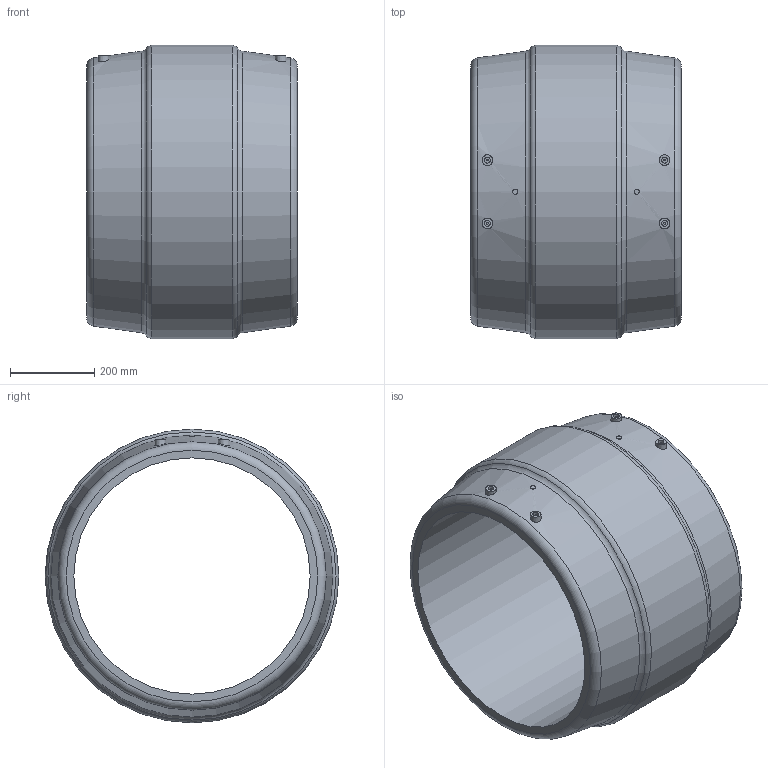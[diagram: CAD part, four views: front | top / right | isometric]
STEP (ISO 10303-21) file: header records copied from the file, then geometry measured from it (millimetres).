
FILE_DESCRIPTION(/* description */ ('Unknown'),/* implementation_level */ '2;1');
FILE_NAME(/* name */ 'MP560C',/* time_stamp */ '2020-12-09T18:07:57+01:00',/* author */ ('Unknown'),/* organization */ ('Unknown'),/* preprocessor_version */ 'ST-DEVELOPER v16.7',/* originating_system */ 'Solid Edge',/* authorisation */ 'Unknown');
FILE_SCHEMA (('AUTOMOTIVE_DESIGN {1 0 10303 214 3 1 1}'));
Length unit declared in the file: millimetre
Products named in the file (1): MP560C
Bounding box: 500 x 696 x 696 mm (x, y, z)
Volume: 53256609.9 mm3; surface area: 2072476.8 mm2
Topology: 1 solids, 1 shells, 40 faces, 74 edges, 48 vertices
Faces by surface type: plane 16, cylinder 12, cone 6, torus 6
Full cylindrical faces by diameter (mm): 4 x4, 12 x2, 14 x4, 560 x1, 696 x1
Entity records: 930 total; most frequent: CARTESIAN_POINT 219, DIRECTION 150, FACE_BOUND 84, ORIENTED_EDGE 80, EDGE_LOOP 80, AXIS2_PLACEMENT_3D 75, VERTEX_POINT 44, EDGE_CURVE 40
